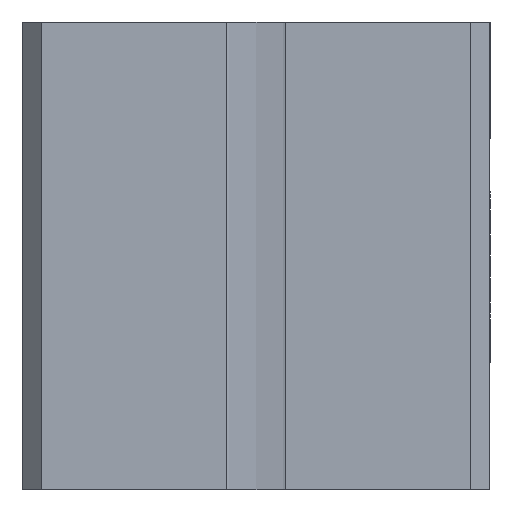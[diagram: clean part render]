
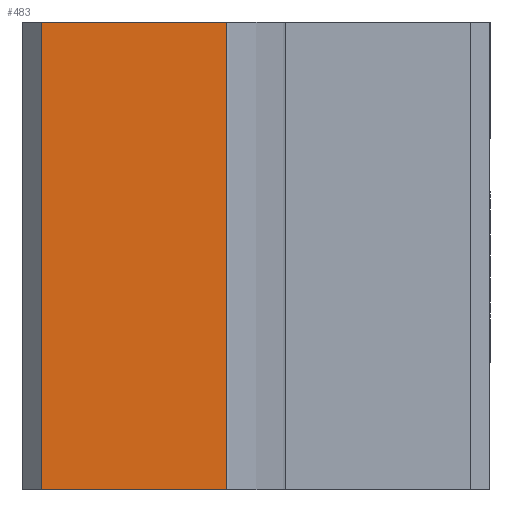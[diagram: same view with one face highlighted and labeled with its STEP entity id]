
A CAD part, left-side view. The second image highlights one B-rep face of the part: STEP entity #483.
In plain terms, the highlighted planar face has unit normal (-1, 0, 0).
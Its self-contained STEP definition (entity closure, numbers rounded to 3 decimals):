
#1 = VERTEX_POINT ( 'NONE', #545 ) ;
#21 = DIRECTION ( 'NONE',  ( -1., 0., 0. ) ) ;
#34 = ORIENTED_EDGE ( 'NONE', *, *, #365, .T. ) ;
#50 = LINE ( 'NONE', #314, #787 ) ;
#89 = DIRECTION ( 'NONE',  ( 0., 0., 1. ) ) ;
#105 = CARTESIAN_POINT ( 'NONE',  ( -17.5, 5.5, -6. ) ) ;
#111 = VERTEX_POINT ( 'NONE', #129 ) ;
#129 = CARTESIAN_POINT ( 'NONE',  ( -17.5, 0.75, 6. ) ) ;
#134 = LINE ( 'NONE', #265, #465 ) ;
#165 = ORIENTED_EDGE ( 'NONE', *, *, #793, .F. ) ;
#223 = VERTEX_POINT ( 'NONE', #782 ) ;
#230 = DIRECTION ( 'NONE',  ( 0., -1., 0. ) ) ;
#256 = CARTESIAN_POINT ( 'NONE',  ( -17.5, 0.75, -6. ) ) ;
#264 = FACE_OUTER_BOUND ( 'NONE', #598, .T. ) ;
#265 = CARTESIAN_POINT ( 'NONE',  ( -17.5, -6., -6. ) ) ;
#314 = CARTESIAN_POINT ( 'NONE',  ( -17.5, 6., 6. ) ) ;
#356 = VECTOR ( 'NONE', #786, 1000. ) ;
#365 = EDGE_CURVE ( 'NONE', #223, #818, #916, .T. ) ;
#368 = DIRECTION ( 'NONE',  ( 0., 1., 0. ) ) ;
#371 = VECTOR ( 'NONE', #89, 1000. ) ;
#464 = EDGE_CURVE ( 'NONE', #1, #818, #134, .T. ) ;
#465 = VECTOR ( 'NONE', #368, 1000. ) ;
#483 = ADVANCED_FACE ( 'NONE', ( #264 ), #715, .T. ) ;
#521 = ORIENTED_EDGE ( 'NONE', *, *, #464, .F. ) ;
#545 = CARTESIAN_POINT ( 'NONE',  ( -17.5, 0.75, -6. ) ) ;
#598 = EDGE_LOOP ( 'NONE', ( #165, #34, #521, #672 ) ) ;
#672 = ORIENTED_EDGE ( 'NONE', *, *, #841, .T. ) ;
#685 = DIRECTION ( 'NONE',  ( 0., 0., 1. ) ) ;
#704 = CARTESIAN_POINT ( 'NONE',  ( -17.5, 5.5, -6. ) ) ;
#715 = PLANE ( 'NONE',  #789 ) ;
#761 = LINE ( 'NONE', #256, #371 ) ;
#769 = CARTESIAN_POINT ( 'NONE',  ( -17.5, 6., -6. ) ) ;
#782 = CARTESIAN_POINT ( 'NONE',  ( -17.5, 5.5, 6. ) ) ;
#786 = DIRECTION ( 'NONE',  ( 0., 0., -1. ) ) ;
#787 = VECTOR ( 'NONE', #230, 1000. ) ;
#789 = AXIS2_PLACEMENT_3D ( 'NONE', #769, #21, #685 ) ;
#793 = EDGE_CURVE ( 'NONE', #223, #111, #50, .T. ) ;
#818 = VERTEX_POINT ( 'NONE', #105 ) ;
#841 = EDGE_CURVE ( 'NONE', #1, #111, #761, .T. ) ;
#916 = LINE ( 'NONE', #704, #356 ) ;
